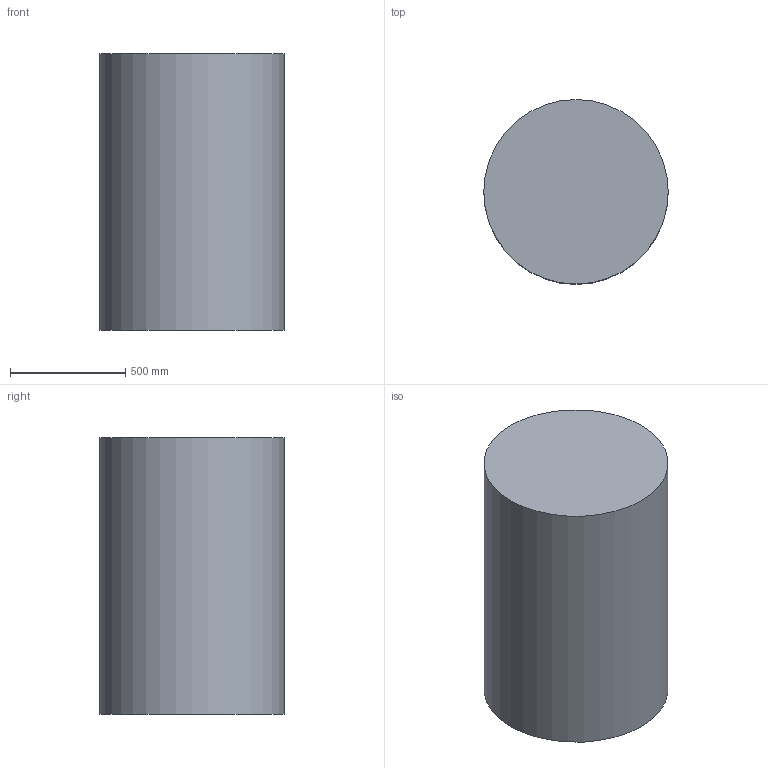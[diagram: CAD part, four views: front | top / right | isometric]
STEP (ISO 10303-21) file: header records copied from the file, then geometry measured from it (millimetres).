
FILE_DESCRIPTION(('CAD model'),'2;1');
FILE_NAME('model','1970-01-01T00:00:00',('selftest'),(''),'OmniBlick','OmniBlick','');
FILE_SCHEMA(('AUTOMOTIVE_DESIGN { 1 0 10303 214 3 1 1 1 }'));
Length unit declared in the file: millimetre
Products named in the file (1): cylinder
Bounding box: 800 x 800 x 1200 mm (x, y, z)
Volume: 603185789.5 mm3; surface area: 4021238.6 mm2
Topology: 1 solids, 1 shells, 3 faces, 3 edges, 2 vertices
Faces by surface type: plane 2, cylinder 1
Full cylindrical faces by diameter (mm): 800 x1
Entity records: 68 total; most frequent: DIRECTION 13, CARTESIAN_POINT 9, AXIS2_PLACEMENT_3D 6, ORIENTED_EDGE 6, EDGE_CURVE 3, EDGE_LOOP 3, FACE_OUTER_BOUND 3, ADVANCED_FACE 3
